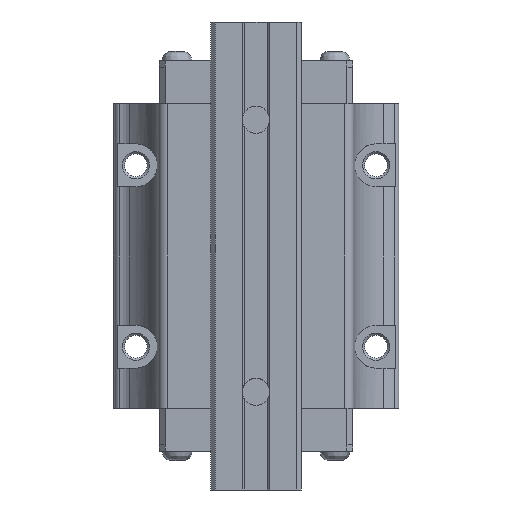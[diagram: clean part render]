
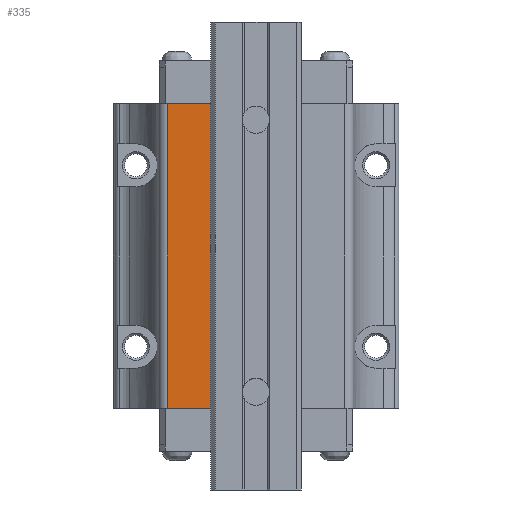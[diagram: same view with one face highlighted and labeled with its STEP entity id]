
A CAD part, front view. The second image highlights one B-rep face of the part: STEP entity #335.
In plain terms, the highlighted planar face has unit normal (0, -1, 0).
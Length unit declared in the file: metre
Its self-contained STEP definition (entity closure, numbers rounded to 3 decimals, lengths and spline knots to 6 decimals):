
#335 = ADVANCED_FACE( '', ( #848 ), #849, .F. );
#848 = FACE_OUTER_BOUND( '', #1626, .T. );
#849 = PLANE( '', #1627 );
#1626 = EDGE_LOOP( '', ( #2676, #2677, #2678, #2679 ) );
#1627 = AXIS2_PLACEMENT_3D( '', #2680, #2681, #2682 );
#2676 = ORIENTED_EDGE( '', *, *, #4502, .F. );
#2677 = ORIENTED_EDGE( '', *, *, #4503, .T. );
#2678 = ORIENTED_EDGE( '', *, *, #4504, .T. );
#2679 = ORIENTED_EDGE( '', *, *, #4366, .T. );
#2680 = CARTESIAN_POINT( '', ( 0.01, 0.005, -0.02595 ) );
#2681 = DIRECTION( '', ( 0., 1., 0. ) );
#2682 = DIRECTION( '', ( 1., 0., 0. ) );
#4366 = EDGE_CURVE( '', #5191, #5189, #5192, .F. );
#4502 = EDGE_CURVE( '', #5426, #5189, #5427, .F. );
#4503 = EDGE_CURVE( '', #5426, #5428, #5429, .T. );
#4504 = EDGE_CURVE( '', #5428, #5191, #5430, .T. );
#5189 = VERTEX_POINT( '', #6365 );
#5191 = VERTEX_POINT( '', #6368 );
#5192 = LINE( '', #6369, #6370 );
#5426 = VERTEX_POINT( '', #6822 );
#5427 = LINE( '', #6823, #6824 );
#5428 = VERTEX_POINT( '', #6825 );
#5429 = LINE( '', #6826, #6827 );
#5430 = LINE( '', #6828, #6829 );
#6365 = CARTESIAN_POINT( '', ( -0.0089, 0.005, -0.018 ) );
#6368 = CARTESIAN_POINT( '', ( -0.0089, 0.005, -0.0852 ) );
#6369 = CARTESIAN_POINT( '', ( -0.0089, 0.005, -0.02595 ) );
#6370 = VECTOR( '', #8008, 1. );
#6822 = CARTESIAN_POINT( '', ( -0.019566, 0.005, -0.018 ) );
#6823 = CARTESIAN_POINT( '', ( 0.019556, 0.005, -0.018 ) );
#6824 = VECTOR( '', #8162, 1. );
#6825 = CARTESIAN_POINT( '', ( -0.019566, 0.005, -0.0852 ) );
#6826 = CARTESIAN_POINT( '', ( -0.019566, 0.005, -0.02595 ) );
#6827 = VECTOR( '', #8163, 1. );
#6828 = CARTESIAN_POINT( '', ( 0.01, 0.005, -0.0852 ) );
#6829 = VECTOR( '', #8164, 1. );
#8008 = DIRECTION( '', ( 0., 0., -1. ) );
#8162 = DIRECTION( '', ( -1., 0., 0. ) );
#8163 = DIRECTION( '', ( 0., 0., -1. ) );
#8164 = DIRECTION( '', ( 1., 0., 0. ) );
